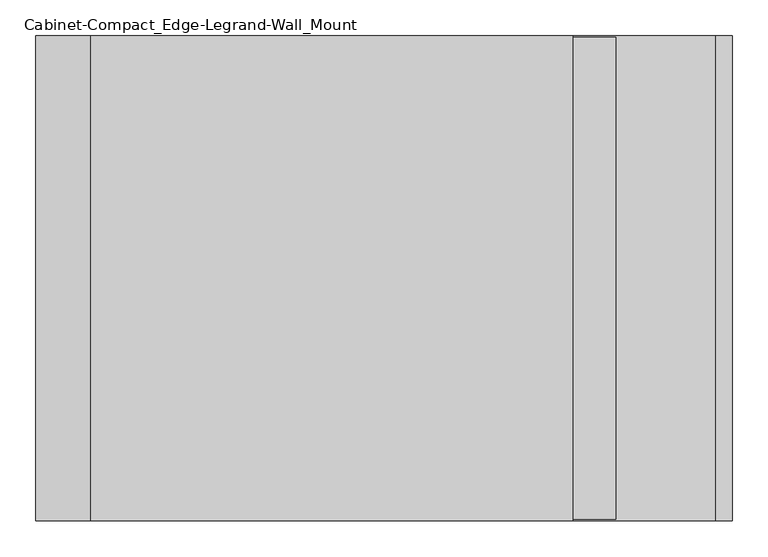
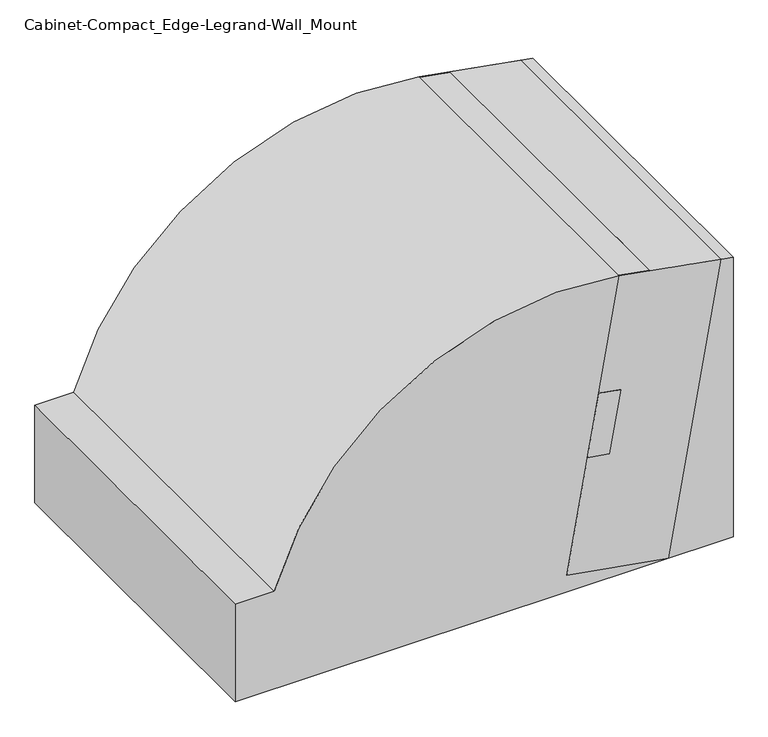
"""IFC4 building model written with IfcOpenShell, lengths in millimetres: electric appliance geometry, Cabinet-Compact_Edge-Legrand-Wall_Mount : 4RU, Plexiglass Door, Black."""

from ifc_helpers import new_model, si_unit, point, frame, frame_2d, origin, place, context, project, spatial, polyline, circle_curve, trimmed, segment, composite_curve, outline, extrude, faceted_brep, source, transform, mapped, element, save
from ifc_brep_helpers import plane_surface, spline_surface, advanced_brep


def cabinet_compact_edge_legrand_wall_mount_f077f431(model_context):
    return source(origin(), model_context, "Body", "SolidModel", [
        faceted_brep([(-216.68994, 256.1268355, 74.2616412), (-216.68994, 284.5152212, 45.8732555), (-216.68994, 285.8568715, 47.2149058), (-216.68994, 257.4684858, 75.6032915), (-237.63732, 288.540172, 47.2149058), (-237.63732, 285.8568715, 44.5316053), (-237.63732, 254.7851853, 75.6032915), (-237.63732, 257.4684858, 78.286592), (247.16232, 257.4684858, 78.286592), (247.16232, 288.540172, 47.2149058), (-216.68994, 254.7851853, 75.6032915), (-216.68994, 243.9981016, 64.8162078), (226.21494, 243.9981016, 64.8162078), (226.21494, 254.7851853, 75.6032915), (247.16232, 254.7851853, 75.6032915), (-216.68994, 285.8568715, 44.5316053), (247.16232, 285.8568715, 44.5316053), (226.21494, 285.8568715, 44.5316053), (226.21494, 281.5355722, 40.210306), (-216.68994, 281.5355722, 40.210306), (226.21494, 245.3397519, 63.4745575), (226.21494, 256.1268355, 74.2616412), (226.21494, 280.1939219, 41.5519563), (226.21494, 284.5152212, 45.8732555), (-216.68994, 245.3397519, 63.4745575), (-216.68994, 280.1939219, 41.5519563), (226.21494, 257.4684858, 75.6032915), (226.21494, 285.8568715, 47.2149058)], [[[0, 1, 2, 3]], [[4, 5, 6, 7]], [[4, 7, 8, 9]], [[8, 7, 6, 10, 11, 12, 13, 14]], [[6, 5, 15, 1, 0, 10]], [[5, 4, 9, 16, 17, 18, 19, 15]], [[12, 20, 21, 13]], [[22, 18, 17, 23]], [[24, 11, 10, 0]], [[19, 25, 1, 15]], [[20, 24, 0, 3, 26, 21]], [[27, 2, 1, 25, 22, 23]], [[18, 22, 25, 19]], [[20, 12, 11, 24]], [[23, 21, 26, 27]], [[9, 8, 14, 16]], [[26, 3, 2, 27]], [[16, 14, 13, 21, 23, 17]]]),
        extrude(outline(composite_curve([segment(trimmed(circle_curve(frame_2d((243.38026, 33.12668)), 27.94), [point((263.1368235, 13.3701165))], [point((223.6236965, 52.8832435))], False, "CARTESIAN"), True, "CONTINUOUS"), segment(polyline([(223.6236965, 52.8832435), (227.6594236, 56.9189706), (240.2317822, 56.9189706), (258.1922944, 74.8794828), (285.1330628, 47.9387144), (267.1725506, 29.9782022), (267.1725506, 17.4058436), (263.1368235, 13.3701165)]), True, "CONTINUOUS")], self_intersect=False)), frame((226.21494, 0.0, 0.0), z_axis=(1.0, 0.0, 0.0), x_axis=(0.0, 1.0, 0.0)), (0.0, 0.0, 1.0), 1.89738),
        extrude(outline(composite_curve([segment(trimmed(circle_curve(frame_2d((243.38026, 33.12668)), 27.94), [point((263.1368235, 13.3701165))], [point((223.6236965, 52.8832435))], False, "CARTESIAN"), True, "CONTINUOUS"), segment(polyline([(223.6236965, 52.8832435), (227.6594236, 56.9189706), (240.2317822, 56.9189706), (258.1922944, 74.8794828), (285.1330628, 47.9387144), (267.1725506, 29.9782022), (267.1725506, 17.4058436), (263.1368235, 13.3701165)]), True, "CONTINUOUS")], self_intersect=False)), frame((-218.58732, 0.0, 0.0), z_axis=(1.0, 0.0, 0.0), x_axis=(0.0, 1.0, 0.0)), (0.0, 0.0, 1.0), 1.89738),
        extrude(outline(polyline([(-221.2975, 192.58026), (-221.2975, 249.73026), (-219.40012, 249.73026), (-219.40012, 190.68288), (-236.5375, 190.68288), (-236.5375, 192.58026), (-221.2975, 192.58026)])), frame((0.0, 0.0, 10.90168), z_axis=(0.0, 0.0, 1.0), x_axis=(1.0, 0.0, 0.0)), (0.0, 0.0, 1.0), 44.45),
        extrude(outline(polyline([(228.92512, 249.73026), (230.8225, 249.73026), (230.8225, 192.58026), (246.0625, 192.58026), (246.0625, 190.68288), (228.92512, 190.68288), (228.92512, 249.73026)])), frame((0.0, 0.0, 10.90168), z_axis=(0.0, 0.0, 1.0), x_axis=(1.0, 0.0, 0.0)), (0.0, 0.0, 1.0), 44.45),
        faceted_brep([(255.57988, -190.61938, 188.31306), (255.57988, -76.08062, 188.31306), (230.17988, -76.08062, 188.31306), (230.17988, -77.978, 188.31306), (253.6825, -77.978, 188.31306), (253.6825, -79.375, 188.31306), (240.9825, -79.375, 188.31306), (240.9825, -187.325, 188.31306), (253.6825, -187.325, 188.31306), (253.6825, -188.722, 188.31306), (230.17988, -188.722, 188.31306), (230.17988, -190.61938, 188.31306), (255.57988, -76.08062, 4.55168), (255.57988, -79.375, 4.55168), (253.6825, -79.375, 4.55168), (253.6825, -77.978, 4.55168), (230.17988, -77.978, 4.55168), (230.17988, -76.08062, 4.55168), (253.6825, -188.722, 4.55168), (253.6825, -187.325, 4.55168), (255.57988, -187.325, 4.55168), (255.57988, -190.61938, 4.55168), (230.17988, -190.61938, 4.55168), (230.17988, -188.722, 4.55168), (255.57988, -187.325, 2.6543), (255.57988, -79.375, 2.6543), (253.6825, -187.325, 186.41568), (253.6825, -79.375, 186.41568), (240.9825, -187.325, 186.41568), (215.5825, -187.325, 4.55168), (215.5825, -187.325, 2.6543), (215.5825, -79.375, 2.6543), (215.5825, -79.375, 4.55168), (240.9825, -79.375, 186.41568)], [[[0, 1, 2, 3, 4, 5, 6, 7, 8, 9, 10, 11]], [[12, 13, 14, 15, 16, 17]], [[18, 19, 20, 21, 22, 23]], [[0, 21, 20, 24, 25, 13, 12, 1]], [[11, 22, 21, 0]], [[10, 23, 22, 11]], [[9, 18, 23, 10]], [[9, 8, 26, 27, 5, 4, 15, 14, 19, 18]], [[3, 16, 15, 4]], [[2, 17, 16, 3]], [[1, 12, 17, 2]], [[26, 8, 7, 28]], [[24, 20, 19, 29, 30]], [[14, 13, 25, 31, 32]], [[6, 5, 27, 33]], [[30, 31, 25, 24]], [[29, 32, 31, 30]], [[19, 14, 32, 29]], [[28, 33, 27, 26]], [[7, 6, 33, 28]]]),
        faceted_brep([(-246.05488, -190.61938, 188.31306), (-220.65488, -190.61938, 188.31306), (-220.65488, -188.722, 188.31306), (-244.1575, -188.722, 188.31306), (-244.1575, -187.325, 188.31306), (-231.4575, -187.325, 188.31306), (-231.4575, -79.375, 188.31306), (-244.1575, -79.375, 188.31306), (-244.1575, -77.978, 188.31306), (-220.65488, -77.978, 188.31306), (-220.65488, -76.08062, 188.31306), (-246.05488, -76.08062, 188.31306), (-246.05488, -76.08062, 4.55168), (-220.65488, -76.08062, 4.55168), (-220.65488, -77.978, 4.55168), (-244.1575, -77.978, 4.55168), (-244.1575, -79.375, 4.55168), (-246.05488, -79.375, 4.55168), (-244.1575, -188.722, 4.55168), (-220.65488, -188.722, 4.55168), (-220.65488, -190.61938, 4.55168), (-246.05488, -190.61938, 4.55168), (-246.05488, -187.325, 4.55168), (-244.1575, -187.325, 4.55168), (-246.05488, -79.375, 2.6543), (-246.05488, -187.325, 2.6543), (-244.1575, -79.375, 186.41568), (-244.1575, -187.325, 186.41568), (-206.0575, -187.325, 2.6543), (-206.0575, -187.325, 4.55168), (-231.4575, -187.325, 186.41568), (-231.4575, -79.375, 186.41568), (-206.0575, -79.375, 4.55168), (-206.0575, -79.375, 2.6543)], [[[0, 1, 2, 3, 4, 5, 6, 7, 8, 9, 10, 11]], [[12, 13, 14, 15, 16, 17]], [[18, 19, 20, 21, 22, 23]], [[0, 11, 12, 17, 24, 25, 22, 21]], [[1, 0, 21, 20]], [[2, 1, 20, 19]], [[3, 2, 19, 18]], [[3, 18, 23, 16, 15, 8, 7, 26, 27, 4]], [[9, 8, 15, 14]], [[10, 9, 14, 13]], [[11, 10, 13, 12]], [[25, 28, 29, 23, 22]], [[27, 30, 5, 4]], [[6, 31, 26, 7]], [[16, 32, 33, 24, 17]], [[28, 25, 24, 33]], [[29, 28, 33, 32]], [[23, 29, 32, 16]], [[30, 27, 26, 31]], [[5, 30, 31, 6]]]),
        extrude(outline(polyline([(230.17988, -76.08062), (230.17988, -77.978), (-220.65488, -77.978), (-220.65488, -76.08062), (230.17988, -76.08062)])), frame((0.0, 0.0, 2.6543), z_axis=(0.0, 0.0, 1.0), x_axis=(1.0, 0.0, 0.0)), (0.0, 0.0, 1.0), 185.65876),
        extrude(outline(polyline([(230.17988, -188.722), (230.17988, -190.61938), (-220.65488, -190.61938), (-220.65488, -188.722), (230.17988, -188.722)])), frame((0.0, 0.0, 2.6543), z_axis=(0.0, 0.0, 1.0), x_axis=(1.0, 0.0, 0.0)), (0.0, 0.0, 1.0), 185.65876),
        faceted_brep([(240.9825, -187.325, 188.31306), (240.9825, -187.325, 186.41568), (253.6825, -187.325, 186.41568), (253.6825, -187.325, 188.31306), (253.6825, -187.325, 4.55168), (215.5825, -187.325, 4.55168), (215.5825, -187.325, 2.6543), (253.6825, -187.325, 2.6543), (215.5825, -79.375, 2.6543), (215.5825, -79.375, 4.55168), (253.6825, -79.375, 4.55168), (253.6825, -79.375, 2.6543), (253.6825, -79.375, 186.41568), (240.9825, -79.375, 186.41568), (240.9825, -79.375, 188.31306), (253.6825, -79.375, 188.31306), (253.6825, -188.722, 2.6543), (253.6825, -188.722, 188.31306), (253.6825, -77.978, 188.31306), (253.6825, -77.978, 2.6543), (230.17988, -188.722, 188.31306), (230.17988, -190.61938, 188.31306), (255.57988, -190.61938, 188.31306), (255.57988, -76.08062, 188.31306), (230.17988, -76.08062, 188.31306), (230.17988, -77.978, 188.31306), (255.57988, -190.61938, 2.6543), (255.57988, -76.08062, 2.6543), (230.17988, -77.978, 2.6543), (230.17988, -76.08062, 2.6543), (230.17988, -190.61938, 2.6543), (230.17988, -188.722, 2.6543)], [[[0, 1, 2, 3]], [[4, 5, 6, 7]], [[8, 9, 10, 11]], [[12, 13, 14, 15]], [[6, 5, 9, 8]], [[5, 4, 10, 9]], [[10, 4, 7, 16, 17, 3, 2, 12, 15, 18, 19, 11]], [[2, 1, 13, 12]], [[1, 0, 14, 13]], [[14, 0, 3, 17, 20, 21, 22, 23, 24, 25, 18, 15]], [[23, 22, 26, 27]], [[6, 8, 11, 19, 28, 29, 27, 26, 30, 31, 16, 7]], [[21, 20, 31, 30]], [[20, 17, 16, 31]], [[18, 25, 28, 19]], [[25, 24, 29, 28]], [[24, 23, 27, 29]], [[22, 21, 30, 26]]]),
        faceted_brep([(-220.65488, -190.61938, 188.31306), (-220.65488, -188.722, 188.31306), (-244.1575, -188.722, 188.31306), (-244.1575, -187.325, 188.31306), (-231.4575, -187.325, 188.31306), (-231.4575, -79.375, 188.31306), (-244.1575, -79.375, 188.31306), (-244.1575, -77.978, 188.31306), (-220.65488, -77.978, 188.31306), (-220.65488, -76.08062, 188.31306), (-246.05488, -76.08062, 188.31306), (-246.05488, -190.61938, 188.31306), (-220.65488, -190.61938, 2.6543), (-246.05488, -190.61938, 2.6543), (-246.05488, -76.08062, 2.6543), (-220.65488, -76.08062, 2.6543), (-220.65488, -77.978, 2.6543), (-244.1575, -77.978, 2.6543), (-244.1575, -79.375, 2.6543), (-206.0575, -79.375, 2.6543), (-206.0575, -187.325, 2.6543), (-244.1575, -187.325, 2.6543), (-244.1575, -188.722, 2.6543), (-220.65488, -188.722, 2.6543), (-244.1575, -187.325, 4.55168), (-244.1575, -79.375, 4.55168), (-244.1575, -79.375, 186.41568), (-244.1575, -187.325, 186.41568), (-206.0575, -187.325, 4.55168), (-231.4575, -187.325, 186.41568), (-231.4575, -79.375, 186.41568), (-206.0575, -79.375, 4.55168)], [[[0, 1, 2, 3, 4, 5, 6, 7, 8, 9, 10, 11]], [[12, 13, 14, 15, 16, 17, 18, 19, 20, 21, 22, 23]], [[1, 0, 12, 23]], [[2, 1, 23, 22]], [[2, 22, 21, 24, 25, 18, 17, 7, 6, 26, 27, 3]], [[8, 7, 17, 16]], [[9, 8, 16, 15]], [[10, 9, 15, 14]], [[11, 10, 14, 13]], [[0, 11, 13, 12]], [[20, 28, 24, 21]], [[27, 29, 4, 3]], [[5, 30, 26, 6]], [[25, 31, 19, 18]], [[28, 20, 19, 31]], [[24, 28, 31, 25]], [[29, 27, 26, 30]], [[4, 29, 30, 5]]]),
        faceted_brep([(255.57988, 76.14412, 188.31306), (255.57988, 190.68288, 188.31306), (230.17988, 190.68288, 188.31306), (230.17988, 188.7855, 188.31306), (253.6825, 188.7855, 188.31306), (253.6825, 187.3885, 188.31306), (240.9825, 187.3885, 188.31306), (240.9825, 79.4385, 188.31306), (253.6825, 79.4385, 188.31306), (253.6825, 78.0415, 188.31306), (230.17988, 78.0415, 188.31306), (230.17988, 76.14412, 188.31306), (255.57988, 190.68288, 4.55168), (255.57988, 187.3885, 4.55168), (253.6825, 187.3885, 4.55168), (253.6825, 188.7855, 4.55168), (230.17988, 188.7855, 4.55168), (230.17988, 190.68288, 4.55168), (253.6825, 78.0415, 4.55168), (253.6825, 79.4385, 4.55168), (255.57988, 79.4385, 4.55168), (255.57988, 76.14412, 4.55168), (230.17988, 76.14412, 4.55168), (230.17988, 78.0415, 4.55168), (255.57988, 79.4385, 2.6543), (255.57988, 187.3885, 2.6543), (253.6825, 79.4385, 186.41568), (253.6825, 187.3885, 186.41568), (240.9825, 79.4385, 186.41568), (215.5825, 79.4385, 4.55168), (215.5825, 79.4385, 2.6543), (215.5825, 187.3885, 2.6543), (215.5825, 187.3885, 4.55168), (240.9825, 187.3885, 186.41568)], [[[0, 1, 2, 3, 4, 5, 6, 7, 8, 9, 10, 11]], [[12, 13, 14, 15, 16, 17]], [[18, 19, 20, 21, 22, 23]], [[0, 21, 20, 24, 25, 13, 12, 1]], [[11, 22, 21, 0]], [[10, 23, 22, 11]], [[9, 18, 23, 10]], [[9, 8, 26, 27, 5, 4, 15, 14, 19, 18]], [[3, 16, 15, 4]], [[2, 17, 16, 3]], [[1, 12, 17, 2]], [[26, 8, 7, 28]], [[24, 20, 19, 29, 30]], [[14, 13, 25, 31, 32]], [[6, 5, 27, 33]], [[30, 31, 25, 24]], [[29, 32, 31, 30]], [[19, 14, 32, 29]], [[28, 33, 27, 26]], [[7, 6, 33, 28]]]),
        faceted_brep([(-246.05488, 76.14412, 188.31306), (-220.65488, 76.14412, 188.31306), (-220.65488, 78.0415, 188.31306), (-244.1575, 78.0415, 188.31306), (-244.1575, 79.4385, 188.31306), (-231.4575, 79.4385, 188.31306), (-231.4575, 187.3885, 188.31306), (-244.1575, 187.3885, 188.31306), (-244.1575, 188.7855, 188.31306), (-220.65488, 188.7855, 188.31306), (-220.65488, 190.68288, 188.31306), (-246.05488, 190.68288, 188.31306), (-246.05488, 190.68288, 4.55168), (-220.65488, 190.68288, 4.55168), (-220.65488, 188.7855, 4.55168), (-244.1575, 188.7855, 4.55168), (-244.1575, 187.3885, 4.55168), (-246.05488, 187.3885, 4.55168), (-244.1575, 78.0415, 4.55168), (-220.65488, 78.0415, 4.55168), (-220.65488, 76.14412, 4.55168), (-246.05488, 76.14412, 4.55168), (-246.05488, 79.4385, 4.55168), (-244.1575, 79.4385, 4.55168), (-246.05488, 187.3885, 2.6543), (-246.05488, 79.4385, 2.6543), (-244.1575, 187.3885, 186.41568), (-244.1575, 79.4385, 186.41568), (-206.0575, 79.4385, 2.6543), (-206.0575, 79.4385, 4.55168), (-231.4575, 79.4385, 186.41568), (-231.4575, 187.3885, 186.41568), (-206.0575, 187.3885, 4.55168), (-206.0575, 187.3885, 2.6543)], [[[0, 1, 2, 3, 4, 5, 6, 7, 8, 9, 10, 11]], [[12, 13, 14, 15, 16, 17]], [[18, 19, 20, 21, 22, 23]], [[0, 11, 12, 17, 24, 25, 22, 21]], [[1, 0, 21, 20]], [[2, 1, 20, 19]], [[3, 2, 19, 18]], [[3, 18, 23, 16, 15, 8, 7, 26, 27, 4]], [[9, 8, 15, 14]], [[10, 9, 14, 13]], [[11, 10, 13, 12]], [[25, 28, 29, 23, 22]], [[27, 30, 5, 4]], [[6, 31, 26, 7]], [[16, 32, 33, 24, 17]], [[28, 25, 24, 33]], [[29, 28, 33, 32]], [[23, 29, 32, 16]], [[30, 27, 26, 31]], [[5, 30, 31, 6]]]),
        extrude(outline(polyline([(230.17988, 190.68288), (230.17988, 188.7855), (-220.65488, 188.7855), (-220.65488, 190.68288), (230.17988, 190.68288)])), frame((0.0, 0.0, 2.6543), z_axis=(0.0, 0.0, 1.0), x_axis=(1.0, 0.0, 0.0)), (0.0, 0.0, 1.0), 185.65876),
        extrude(outline(polyline([(230.17988, 78.0415), (230.17988, 76.14412), (-220.65488, 76.14412), (-220.65488, 78.0415), (230.17988, 78.0415)])), frame((0.0, 0.0, 2.6543), z_axis=(0.0, 0.0, 1.0), x_axis=(1.0, 0.0, 0.0)), (0.0, 0.0, 1.0), 185.65876),
        faceted_brep([(240.9825, 79.4385, 188.31306), (240.9825, 79.4385, 186.41568), (253.6825, 79.4385, 186.41568), (253.6825, 79.4385, 188.31306), (253.6825, 79.4385, 4.55168), (215.5825, 79.4385, 4.55168), (215.5825, 79.4385, 2.6543), (253.6825, 79.4385, 2.6543), (215.5825, 187.3885, 2.6543), (215.5825, 187.3885, 4.55168), (253.6825, 187.3885, 4.55168), (253.6825, 187.3885, 2.6543), (253.6825, 187.3885, 186.41568), (240.9825, 187.3885, 186.41568), (240.9825, 187.3885, 188.31306), (253.6825, 187.3885, 188.31306), (253.6825, 78.0415, 2.6543), (253.6825, 78.0415, 188.31306), (253.6825, 188.7855, 188.31306), (253.6825, 188.7855, 2.6543), (230.17988, 78.0415, 188.31306), (230.17988, 76.14412, 188.31306), (255.57988, 76.14412, 188.31306), (255.57988, 190.68288, 188.31306), (230.17988, 190.68288, 188.31306), (230.17988, 188.7855, 188.31306), (255.57988, 76.14412, 2.6543), (255.57988, 190.68288, 2.6543), (230.17988, 188.7855, 2.6543), (230.17988, 190.68288, 2.6543), (230.17988, 76.14412, 2.6543), (230.17988, 78.0415, 2.6543)], [[[0, 1, 2, 3]], [[4, 5, 6, 7]], [[8, 9, 10, 11]], [[12, 13, 14, 15]], [[6, 5, 9, 8]], [[5, 4, 10, 9]], [[10, 4, 7, 16, 17, 3, 2, 12, 15, 18, 19, 11]], [[2, 1, 13, 12]], [[1, 0, 14, 13]], [[14, 0, 3, 17, 20, 21, 22, 23, 24, 25, 18, 15]], [[23, 22, 26, 27]], [[6, 8, 11, 19, 28, 29, 27, 26, 30, 31, 16, 7]], [[21, 20, 31, 30]], [[20, 17, 16, 31]], [[18, 25, 28, 19]], [[25, 24, 29, 28]], [[24, 23, 27, 29]], [[22, 21, 30, 26]]]),
        faceted_brep([(-220.65488, 76.14412, 188.31306), (-220.65488, 78.0415, 188.31306), (-244.1575, 78.0415, 188.31306), (-244.1575, 79.4385, 188.31306), (-231.4575, 79.4385, 188.31306), (-231.4575, 187.3885, 188.31306), (-244.1575, 187.3885, 188.31306), (-244.1575, 188.7855, 188.31306), (-220.65488, 188.7855, 188.31306), (-220.65488, 190.68288, 188.31306), (-246.05488, 190.68288, 188.31306), (-246.05488, 76.14412, 188.31306), (-220.65488, 76.14412, 2.6543), (-246.05488, 76.14412, 2.6543), (-246.05488, 190.68288, 2.6543), (-220.65488, 190.68288, 2.6543), (-220.65488, 188.7855, 2.6543), (-244.1575, 188.7855, 2.6543), (-244.1575, 187.3885, 2.6543), (-206.0575, 187.3885, 2.6543), (-206.0575, 79.4385, 2.6543), (-244.1575, 79.4385, 2.6543), (-244.1575, 78.0415, 2.6543), (-220.65488, 78.0415, 2.6543), (-244.1575, 79.4385, 4.55168), (-244.1575, 187.3885, 4.55168), (-244.1575, 187.3885, 186.41568), (-244.1575, 79.4385, 186.41568), (-206.0575, 79.4385, 4.55168), (-231.4575, 79.4385, 186.41568), (-231.4575, 187.3885, 186.41568), (-206.0575, 187.3885, 4.55168)], [[[0, 1, 2, 3, 4, 5, 6, 7, 8, 9, 10, 11]], [[12, 13, 14, 15, 16, 17, 18, 19, 20, 21, 22, 23]], [[1, 0, 12, 23]], [[2, 1, 23, 22]], [[2, 22, 21, 24, 25, 18, 17, 7, 6, 26, 27, 3]], [[8, 7, 17, 16]], [[9, 8, 16, 15]], [[10, 9, 15, 14]], [[11, 10, 14, 13]], [[0, 11, 13, 12]], [[20, 28, 24, 21]], [[27, 29, 4, 3]], [[5, 30, 26, 6]], [[25, 31, 19, 18]], [[28, 20, 19, 31]], [[24, 28, 31, 25]], [[29, 27, 26, 30]], [[4, 29, 30, 5]]]),
        extrude(outline(polyline([(0.0, -43.1799999), (0.0, 0.0), (1.524, 0.0), (1.524, -43.1799999), (0.0, -43.1799999)])), frame((358.4906599, -336.804, 255.247961), z_axis=(0.1736481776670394, 0.0, 0.9848077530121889), x_axis=(0.0, -1.0, 0.0)), (0.0, 0.0, 1.0), 127.0),
        extrude(outline(polyline([(0.0, -43.1799999), (0.0, 0.0), (1.524, 0.0), (1.524, -43.1799999), (0.0, -43.1799999)])), frame((315.9666612, 336.804, 262.7460893), z_axis=(0.1736481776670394, 0.0, 0.9848077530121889), x_axis=(0.0, 1.0, 0.0)), (0.0, 0.0, 1.0), 127.0),
        extrude(outline(polyline([(0.0, -524.256), (0.0, 0.0), (1.51892, 0.0), (1.51892, -524.256), (0.0, -524.256)])), frame((479.0943493, -262.128, 30.8715686), z_axis=(0.1736481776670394, 0.0, 0.9848077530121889), x_axis=(-0.9848077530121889, 0.0, 0.1736481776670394)), (0.0, 0.0, 1.0), 527.05),
        extrude(outline(composite_curve([segment(polyline([(-113.03, 0.0), (-6.35, 0.0)]), True, "CONTINUOUS"), segment(trimmed(circle_curve(frame_2d((-6.35, -6.35)), 6.35), [point((-6.35, 0.0))], [point((0.0, -6.35))], False, "CARTESIAN"), True, "CONTINUOUS"), segment(polyline([(0.0, -6.35), (0.0, -113.03)]), True, "CONTINUOUS"), segment(trimmed(circle_curve(frame_2d((-6.35, -113.03)), 6.35), [point((0.0, -113.03))], [point((-6.35, -119.3800001))], False, "CARTESIAN"), True, "CONTINUOUS"), segment(polyline([(-6.35, -119.3800001), (-113.03, -119.3800001)]), True, "CONTINUOUS"), segment(trimmed(circle_curve(frame_2d((-113.03, -113.03)), 6.35), [point((-113.03, -119.3800001))], [point((-119.38, -113.03))], False, "CARTESIAN"), True, "CONTINUOUS"), segment(polyline([(-119.38, -113.03), (-119.38, -6.35)]), True, "CONTINUOUS"), segment(trimmed(circle_curve(frame_2d((-113.03, -6.35)), 6.35), [point((-119.38, -6.35))], [point((-113.03, 0.0))], False, "CARTESIAN"), True, "CONTINUOUS")], self_intersect=False)), frame((466.42048, -316.9956936, 2.4088705), z_axis=(0.17364817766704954, 0.0, 0.9848077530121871), x_axis=(0.0, -1.0, 0.0)), (0.0, 0.0, 1.0), 38.1),
        faceted_brep([(473.5810197, -338.328, -0.3960776), (576.128951, -338.328, 581.1821409), (378.2672861, -338.328, 616.0704909), (275.7193548, -338.328, 34.4922724), (576.128951, 338.328, 581.1821409), (473.5810197, 338.328, -0.3960776), (275.7193548, 338.328, 34.4922724), (378.2672861, 338.328, 616.0704909), (570.6156213, 262.128, 549.9144948), (479.0943493, 262.128, 30.8715686), (479.0943493, -262.128, 30.8715686), (570.6156213, -262.128, 549.9144948), (378.2672861, -336.79892, 616.0704909), (378.2672861, 336.804, 616.0704909), (438.3011667, 336.804, 605.484898), (438.3011667, -336.79892, 605.484898), (433.8022897, 336.804, 579.9704987), (433.8022897, -336.79892, 579.9704987), (439.7833944, -336.79892, 603.6811895), (439.7833944, 336.804, 603.6811895), (574.3693491, 336.804, 579.9500544), (574.3693491, -336.79892, 579.9500544), (472.3489332, 336.804, 1.3635243), (472.3489332, -336.79892, 1.3635243), (477.5985051, 262.128, 31.1353262), (569.1197772, 262.128, 550.1782525), (569.1197772, -262.128, 550.1782525), (477.5985051, -262.128, 31.1353262), (303.2434971, 336.804, 31.1813752), (303.2434971, -336.79892, 31.1813752), (306.9972249, -262.128, 61.2169349), (306.9972249, 262.128, 61.2169349), (306.9972249, 336.804, 61.2169349), (301.4838952, 336.804, 29.9492887), (301.4838952, -336.79892, 29.9492887), (306.9972249, -336.79892, 61.2169349), (275.7193548, -336.79892, 34.4922724), (275.7193548, 336.804, 34.4922724), (308.2293114, 336.804, 59.457333), (308.2293114, -336.79892, 59.457333), (319.5042833, -336.79892, 59.011603), (319.5042833, -262.128, 59.011603), (319.5042833, 262.128, 59.011603), (319.5042833, 336.804, 59.011603), (446.5594894, 336.804, 577.7210602), (446.5594894, -336.79892, 577.7210602), (435.8120328, -336.79892, 581.1584786), (435.8120328, 336.804, 581.1584786), (446.8232471, -336.79892, 579.2169044), (319.2405256, -336.79892, 57.5157589), (319.2405256, 336.804, 57.5157589), (446.8232471, 336.804, 579.2169044)], [[[0, 1, 2, 3]], [[4, 5, 6, 7]], [[1, 0, 5, 4], [8, 9, 10, 11]], [[12, 2, 1, 4, 7, 13, 14, 15]], [[15, 14, 16, 17]], [[18, 19, 20, 21]], [[21, 20, 22, 23], [24, 25, 26, 27]], [[23, 22, 28, 29]], [[30, 31, 32, 33, 34, 35]], [[3, 36, 34, 33, 37, 6, 5, 0]], [[29, 28, 38, 39]], [[31, 30, 35, 40, 41, 42, 43, 32]], [[17, 16, 44, 45]], [[19, 18, 46, 47]], [[36, 3, 2, 12]], [[36, 12, 15, 17, 45, 48, 46, 18, 21, 23, 29, 39, 49, 40, 35, 34]], [[13, 37, 33, 32, 43, 50, 38, 28, 22, 20, 19, 47, 51, 44, 16, 14]], [[6, 37, 13, 7]], [[45, 44, 51, 48]], [[47, 46, 48, 51]], [[39, 38, 50, 49]], [[42, 41, 40, 49, 50, 43]], [[24, 9, 8, 25]], [[25, 8, 11, 26]], [[26, 11, 10, 27]], [[9, 24, 27, 10]]]),
        extrude(outline(composite_curve([segment(polyline([(0.0, -371.475), (0.0, 600.075), (576.6525962, 600.075), (616.0704909, 378.2672861)]), True, "CONTINUOUS"), segment(trimmed(circle_curve(frame_2d((29.8273033, 274.8967949)), 595.2869337), [point((616.0704909, 378.2672861))], [point((200.914, -295.275))], False, "CARTESIAN"), True, "CONTINUOUS"), segment(polyline([(200.914, -295.275), (200.914, -371.475), (0.0, -371.475)]), True, "CONTINUOUS")], self_intersect=False)), frame((0.0, -338.328, 0.0), z_axis=(0.0, 1.0, 0.0), x_axis=(0.0, 0.0, 1.0)), (0.0, 0.0, 1.0), 676.656),
        advanced_brep(
        [(-306.8338934, 62.2499989, 36.9029989), (-306.8338934, 50.25, 24.903), (-306.8338934, -51.75, 24.903), (-306.8338934, -63.7499989, 36.9029989), (-306.8338934, -51.75, 48.9029978), (-306.8338934, 50.25, 48.9029978), (-295.275, 80.25, 51.728), (-295.275, 77.075, 54.903), (-295.275, -76.575, 54.903), (-295.275, -79.75, 51.728), (-295.275, -79.75, 22.078), (-295.275, -76.575, 18.903), (-295.275, 77.075, 18.903), (-295.275, 80.25, 22.078)],
        [
            (0, 1, circle_curve(frame((-306.8338934, 50.25, 36.9029989), z_axis=(-1.0, 0.0, 0.0), x_axis=(0.0, 1.0, 0.0)), 11.9999989)),
            (1, 2),
            (2, 3, circle_curve(frame((-306.8338934, -51.75, 36.9029989), z_axis=(-1.0, 0.0, 0.0), x_axis=(0.0, 1.0, 0.0)), 11.9999989)),
            (3, 4, circle_curve(frame((-306.8338934, -51.75, 36.9029989), z_axis=(-1.0, 0.0, 0.0), x_axis=(0.0, 1.0, 0.0)), 11.9999989)),
            (4, 5),
            (5, 0, circle_curve(frame((-306.8338934, 50.25, 36.9029989), z_axis=(-1.0, 0.0, 0.0), x_axis=(0.0, 1.0, 0.0)), 11.9999989)),
            (6, 7, circle_curve(frame((-295.275, 77.075, 51.728), z_axis=(1.0, 0.0, 0.0), x_axis=(0.0, 1.0, 0.0)), 3.175)),
            (7, 8),
            (8, 9, circle_curve(frame((-295.275, -76.575, 51.728), z_axis=(1.0, 0.0, 0.0), x_axis=(0.0, 1.0, 0.0)), 3.175)),
            (9, 10),
            (10, 11, circle_curve(frame((-295.275, -76.575, 22.078), z_axis=(1.0, 0.0, 0.0), x_axis=(0.0, 1.0, 0.0)), 3.175)),
            (11, 12),
            (12, 13, circle_curve(frame((-295.275, 77.075, 22.078), z_axis=(1.0, 0.0, 0.0), x_axis=(0.0, 1.0, 0.0)), 3.175)),
            (13, 6),
            (7, 5),
            (4, 8),
            (11, 2),
            (1, 12),
            (10, 3),
            (9, 3),
            (13, 0),
            (0, 6),
        ],
        [
            plane_surface(frame((-306.8338934, -0.75, 36.9029989), z_axis=(-1.0, 0.0, 0.0), x_axis=(0.0, -1.0, 0.0))),
            plane_surface(frame((-295.275, 0.25, 36.903), z_axis=(1.0, 0.0, 0.0), x_axis=(0.0, -1.0, 0.0))),
            plane_surface(frame((-295.275, 0.25, 54.903), z_axis=(-0.4607105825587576, 0.0, 0.8875504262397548), x_axis=(0.0, 1.0, 0.0))),
            plane_surface(frame((-295.275, 0.25, 18.903), z_axis=(-0.4607104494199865, 0.0, -0.8875504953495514), x_axis=(0.0, -1.0, 0.0))),
            spline_surface(2, 1, [[(-295.275, -76.575, 18.903), (-306.8338934, -51.75, 24.903)], [(-295.275, -79.75, 18.903), (-306.8338934, -63.7499989, 24.903)], [(-295.275, -79.75, 22.078), (-306.8338934, -63.7499989, 36.9029989)]], [3, 3], [2, 2], [0.0, 1.0], [0.0, 1.0], weights=[[1.0, 1.0], [0.7071067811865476, 0.7071067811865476], [1.0, 1.0]]),
            plane_surface(frame((-295.275, -79.75, 36.903), z_axis=(-0.8105989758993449, -0.5856016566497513, 0.0), x_axis=(0.0, 0.0, 1.0))),
            spline_surface(2, 1, [[(-295.275, -79.75, 51.728), (-306.8338934, -63.7499989, 36.9029989)], [(-295.275, -79.75, 54.903), (-306.8338934, -63.7499989, 48.9029978)], [(-295.275, -76.575, 54.903), (-306.8338934, -51.75, 48.9029978)]], [3, 3], [2, 2], [0.0, 1.0], [0.0, 1.0], weights=[[1.0, 1.0], [0.7071067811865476, 0.7071067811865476], [1.0, 1.0]]),
            plane_surface(frame((-295.275, 80.25, 36.903), z_axis=(-0.8414449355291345, 0.5403428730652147, 0.0), x_axis=(0.0, 0.0, -1.0))),
            spline_surface(2, 1, [[(-295.275, 80.25, 22.078), (-306.8338934, 62.2499989, 36.9029989)], [(-295.275, 80.25, 18.903000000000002), (-306.8338934, 62.2499989, 24.903)], [(-295.275, 77.075, 18.903), (-306.8338934, 50.25, 24.903)]], [3, 3], [2, 2], [0.0, 1.0], [0.0, 1.0], weights=[[1.0, 1.0], [0.7071067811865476, 0.7071067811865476], [1.0, 1.0]]),
            spline_surface(2, 1, [[(-295.275, 77.075, 54.903), (-306.8338934, 50.25, 48.9029978)], [(-295.275, 80.25, 54.903), (-306.8338934, 62.2499989, 48.9029978)], [(-295.275, 80.25, 51.728), (-306.8338934, 62.2499989, 36.9029989)]], [3, 3], [2, 2], [0.0, 1.0], [0.0, 1.0], weights=[[1.0, 1.0], [0.7071067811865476, 0.7071067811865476], [1.0, 1.0]]),
        ],
        [
            (0, [[1, 2, 3, 4, 5, 6]]),
            (1, [[7, 8, 9, 10, 11, 12, 13, 14]]),
            (2, [[-8, 15, -5, 16]]),
            (3, [[-12, 17, -2, 18]]),
            (4, [[-11, 19, -3, -17]]),
            (5, [[-10, 20, -19]]),
            (6, [[-9, -16, -4, -20]]),
            (7, [[-14, 21, 22]]),
            (8, [[-13, -18, -1, -21]]),
            (9, [[-7, -22, -6, -15]]),
        ],
    ),
        faceted_brep([(-292.6207, -330.962, 56.4007), (-266.827, -330.962, 56.4007), (-266.827, -330.962, 59.055), (-295.275, -330.962, 59.055), (-295.275, -330.962, 20.955), (-292.6207, -330.962, 20.955), (-295.275, 330.962, 59.055), (-266.827, 330.962, 59.055), (-266.827, 330.962, 56.4007), (-292.6207, 330.962, 56.4007), (-292.6207, 330.962, 20.955), (-295.275, 330.962, 20.955), (-295.275, 333.6163, 0.0), (295.275, 333.6163, 0.0), (295.275, -333.6163, 0.0), (-295.275, -333.6163, 0.0), (295.275, 333.6163, 20.955), (295.275, -333.6163, 20.955), (-295.275, 333.6163, 20.955), (269.875, 330.962, 20.955), (269.875, -330.962, 20.955), (-295.275, -333.6163, 20.955), (292.6207, -330.962, 18.3007), (292.6207, 330.962, 18.3007), (292.6207, 330.962, 2.6543), (292.6207, -330.962, 2.6543), (-292.6207, 330.962, 2.6543), (-292.6207, -330.962, 2.6543), (269.875, 330.962, 18.3007), (269.875, -330.962, 18.3007)], [[[0, 1, 2, 3, 4, 5]], [[6, 7, 8, 9, 10, 11]], [[12, 13, 14, 15]], [[14, 13, 16, 17]], [[17, 16, 18, 11, 10, 19, 20, 5, 4, 21]], [[22, 23, 24, 25]], [[25, 24, 26, 27]], [[27, 26, 10, 9, 0, 5]], [[3, 2, 7, 6]], [[12, 15, 21, 4, 3, 6, 11, 18]], [[20, 19, 28, 29]], [[23, 22, 29, 28]], [[1, 0, 9, 8]], [[2, 1, 8, 7]], [[5, 20, 29, 22, 25, 27]], [[14, 17, 21, 15]], [[19, 10, 26, 24, 23, 28]], [[16, 13, 12, 18]]]),
    ])


if __name__ == "__main__":
    model = new_model("IFC4")
    model_context = context("Model", 3, world=origin())
    ifc_project = project(units=[si_unit("LENGTHUNIT", "METRE", prefix="MILLI")], contexts=[model_context])
    site = spatial("IfcSite", under=ifc_project)
    building = spatial("IfcBuilding", under=site)
    placement = place(None, origin())
    cabinet_compact_edge_legrand_wall_mount_shape = cabinet_compact_edge_legrand_wall_mount_f077f431(model_context)
    element("IfcElectricAppliance", 1, ObjectType="Cabinet-Compact_Edge-Legrand-Wall_Mount : 4RU, Plexiglass Door, Black", at=placement, inside=building, context=model_context, shape_type="MappedRepresentation", body=[
        mapped(cabinet_compact_edge_legrand_wall_mount_shape, transform((0.0, 0.0, 0.0), x_axis=(1.0, 0.0, 0.0), y_axis=(0.0, 1.0, 0.0), z_axis=(0.0, 0.0, 1.0))),
    ])
    save(model, "model.ifc")
